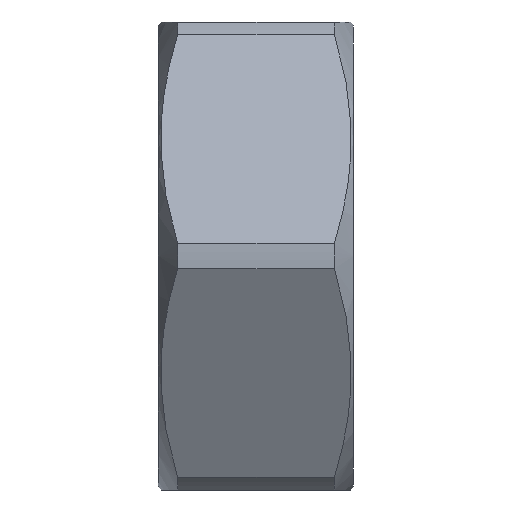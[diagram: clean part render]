
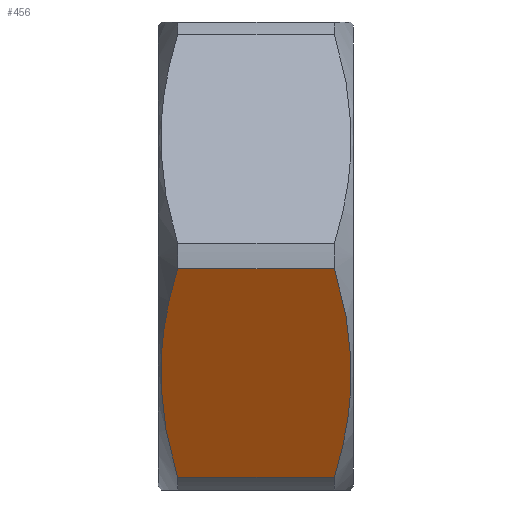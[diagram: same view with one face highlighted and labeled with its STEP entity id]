
A CAD part, left-side view. The second image highlights one B-rep face of the part: STEP entity #456.
In plain terms, the highlighted planar face has unit normal (-0.866, 0, -0.5).
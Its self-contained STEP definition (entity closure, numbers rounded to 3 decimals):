
#114=(
BOUNDED_CURVE()
B_SPLINE_CURVE(2,(#650,#651,#652),.UNSPECIFIED.,.F.,.U.)
B_SPLINE_CURVE_WITH_KNOTS((3,3),(0.,0.701),.UNSPECIFIED.)
CURVE()
GEOMETRIC_REPRESENTATION_ITEM()
RATIONAL_B_SPLINE_CURVE((1.,1.155,1.))
REPRESENTATION_ITEM('')
);
#123=(
BOUNDED_CURVE()
B_SPLINE_CURVE(2,(#709,#710,#711),.UNSPECIFIED.,.F.,.U.)
B_SPLINE_CURVE_WITH_KNOTS((3,3),(0.,0.701),.UNSPECIFIED.)
CURVE()
GEOMETRIC_REPRESENTATION_ITEM()
RATIONAL_B_SPLINE_CURVE((1.,1.155,1.))
REPRESENTATION_ITEM('')
);
#127=PLANE('',#498);
#132=VECTOR('',#507,1.);
#135=VECTOR('',#516,1.);
#144=LINE('',#595,#132);
#147=LINE('',#607,#135);
#156=VERTEX_POINT('',#593);
#158=VERTEX_POINT('',#596);
#161=VERTEX_POINT('',#602);
#163=VERTEX_POINT('',#606);
#217=EDGE_CURVE('',#158,#156,#144,.T.);
#223=EDGE_CURVE('',#161,#163,#147,.T.);
#243=EDGE_CURVE('',#163,#158,#114,.T.);
#263=EDGE_CURVE('',#156,#161,#123,.T.);
#340=ORIENTED_EDGE('',*,*,#223,.T.);
#341=ORIENTED_EDGE('',*,*,#243,.T.);
#342=ORIENTED_EDGE('',*,*,#217,.T.);
#343=ORIENTED_EDGE('',*,*,#263,.T.);
#393=EDGE_LOOP('',(#340,#341,#342,#343));
#431=FACE_BOUND('',#393,.T.);
#456=ADVANCED_FACE('',(#431),#127,.T.);
#498=AXIS2_PLACEMENT_3D('',#712,#586,$);
#507=DIRECTION('',(0.,-1.,0.));
#516=DIRECTION('',(0.,1.,0.));
#586=DIRECTION('',(-0.866,0.,-0.5));
#593=CARTESIAN_POINT('',(-3.65,0.491,-5.678));
#595=CARTESIAN_POINT('',(-3.65,2.5,-5.678));
#596=CARTESIAN_POINT('',(-3.65,4.509,-5.678));
#602=CARTESIAN_POINT('',(-6.742,0.491,-0.322));
#606=CARTESIAN_POINT('',(-6.742,4.509,-0.322));
#607=CARTESIAN_POINT('',(-6.742,2.5,-0.322));
#650=CARTESIAN_POINT('',(-6.928,4.406,0.));
#651=CARTESIAN_POINT('',(-5.196,5.406,-3.));
#652=CARTESIAN_POINT('',(-3.464,4.406,-6.));
#709=CARTESIAN_POINT('',(-3.464,0.594,-6.));
#710=CARTESIAN_POINT('',(-5.196,-0.406,-3.));
#711=CARTESIAN_POINT('',(-6.928,0.594,0.));
#712=CARTESIAN_POINT('',(-5.196,0.,-3.));
